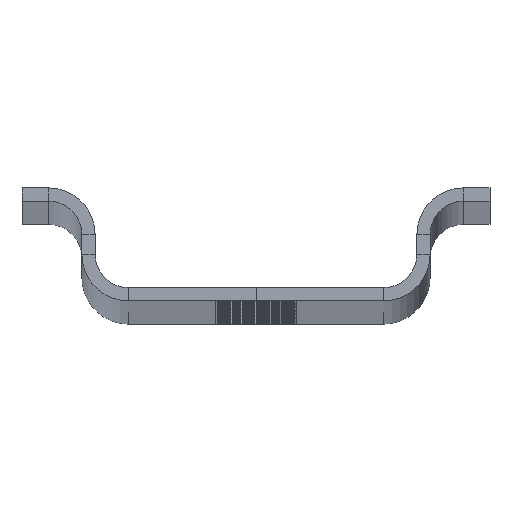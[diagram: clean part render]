
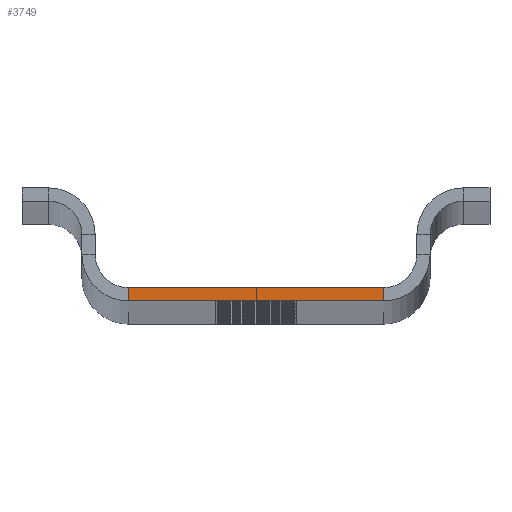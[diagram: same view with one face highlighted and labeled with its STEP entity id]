
A CAD part, top view. The second image highlights one B-rep face of the part: STEP entity #3749.
In plain terms, the highlighted planar face has unit normal (0, 0, 1).
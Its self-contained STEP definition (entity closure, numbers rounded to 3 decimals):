
#117 = CARTESIAN_POINT ( 'NONE',  ( 9.6, -1., 1000. ) ) ;
#338 = ORIENTED_EDGE ( 'NONE', *, *, #3278, .T. ) ;
#567 = DIRECTION ( 'NONE',  ( 1., 0., 0. ) ) ;
#750 = VERTEX_POINT ( 'NONE', #4467 ) ;
#753 = VECTOR ( 'NONE', #3396, 1000. ) ;
#759 = VERTEX_POINT ( 'NONE', #5088 ) ;
#1188 = CARTESIAN_POINT ( 'NONE',  ( -13.1, 2.5, 1000. ) ) ;
#1369 = CARTESIAN_POINT ( 'NONE',  ( -9.6, 0., 1000. ) ) ;
#1406 = LINE ( 'NONE', #4606, #753 ) ;
#2003 = LINE ( 'NONE', #117, #5373 ) ;
#2702 = CARTESIAN_POINT ( 'NONE',  ( 9.6, 0., 1000. ) ) ;
#3131 = EDGE_LOOP ( 'NONE', ( #338, #5469, #7354, #4399 ) ) ;
#3278 = EDGE_CURVE ( 'NONE', #7157, #759, #1406, .T. ) ;
#3396 = DIRECTION ( 'NONE',  ( -1., 0., 0. ) ) ;
#3558 = EDGE_CURVE ( 'NONE', #750, #7157, #2003, .T. ) ;
#3749 = ADVANCED_FACE ( 'NONE', ( #4803 ), #5511, .T. ) ;
#4399 = ORIENTED_EDGE ( 'NONE', *, *, #3558, .T. ) ;
#4467 = CARTESIAN_POINT ( 'NONE',  ( 9.6, -1., 1000. ) ) ;
#4606 = CARTESIAN_POINT ( 'NONE',  ( -12.1, 0., 1000. ) ) ;
#4803 = FACE_OUTER_BOUND ( 'NONE', #3131, .T. ) ;
#4893 = VECTOR ( 'NONE', #5160, 1000. ) ;
#5088 = CARTESIAN_POINT ( 'NONE',  ( -9.6, 0., 1000. ) ) ;
#5160 = DIRECTION ( 'NONE',  ( 0., -1., 0. ) ) ;
#5373 = VECTOR ( 'NONE', #6893, 1000. ) ;
#5458 = CARTESIAN_POINT ( 'NONE',  ( -12.1, -1., 1000. ) ) ;
#5469 = ORIENTED_EDGE ( 'NONE', *, *, #7137, .T. ) ;
#5511 = PLANE ( 'NONE',  #6245 ) ;
#6104 = LINE ( 'NONE', #5458, #7747 ) ;
#6149 = CARTESIAN_POINT ( 'NONE',  ( -9.6, -1., 1000. ) ) ;
#6245 = AXIS2_PLACEMENT_3D ( 'NONE', #1188, #6694, #567 ) ;
#6435 = LINE ( 'NONE', #1369, #4893 ) ;
#6694 = DIRECTION ( 'NONE',  ( 0., 0., 1. ) ) ;
#6891 = VERTEX_POINT ( 'NONE', #6149 ) ;
#6893 = DIRECTION ( 'NONE',  ( 0., 1., 0. ) ) ;
#7137 = EDGE_CURVE ( 'NONE', #759, #6891, #6435, .T. ) ;
#7157 = VERTEX_POINT ( 'NONE', #2702 ) ;
#7354 = ORIENTED_EDGE ( 'NONE', *, *, #7911, .F. ) ;
#7358 = DIRECTION ( 'NONE',  ( -1., 0., 0. ) ) ;
#7747 = VECTOR ( 'NONE', #7358, 1000. ) ;
#7911 = EDGE_CURVE ( 'NONE', #750, #6891, #6104, .T. ) ;
